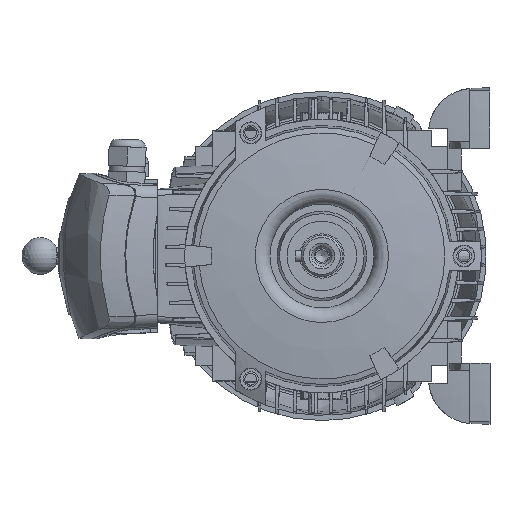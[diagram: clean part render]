
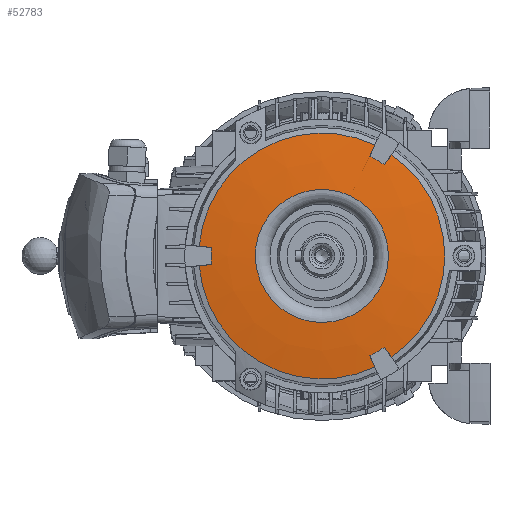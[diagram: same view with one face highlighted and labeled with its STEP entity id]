
A CAD part, left-side view. The second image highlights one B-rep face of the part: STEP entity #52783.
In plain terms, the highlighted free-form (B-spline) face has degree [2, 2] with [3, 9] control points.
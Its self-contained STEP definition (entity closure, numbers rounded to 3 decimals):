
#51445=CARTESIAN_POINT('',(-44.895,0.0,0.179));
#51446=VERTEX_POINT('',#51445);
#51447=CARTESIAN_POINT('',(0.0,0.0,0.179));
#51448=DIRECTION('',(0.0,0.0,-1.0));
#51449=DIRECTION('',(-1.0,0.0,0.0));
#51450=AXIS2_PLACEMENT_3D('',#51447,#51448,#51449);
#51451=CIRCLE('',#51450,44.895);
#51452=EDGE_CURVE('',#51446,#51446,#51451,.T.);
#52415=CARTESIAN_POINT('',(-74.963,35.632,4.171));
#52416=VERTEX_POINT('',#52415);
#52417=CARTESIAN_POINT('',(-6.623,-82.735,4.171));
#52418=VERTEX_POINT('',#52417);
#52419=CARTESIAN_POINT('',(0.0,0.0,4.171));
#52420=DIRECTION('',(0.0,0.0,1.0));
#52421=DIRECTION('',(1.0,0.0,0.0));
#52422=AXIS2_PLACEMENT_3D('',#52419,#52420,#52421);
#52423=CIRCLE('',#52422,83.0);
#52424=EDGE_CURVE('',#52416,#52418,#52423,.T.);
#52572=CARTESIAN_POINT('',(6.623,-82.735,4.171));
#52573=VERTEX_POINT('',#52572);
#52574=CARTESIAN_POINT('',(74.963,35.632,4.171));
#52575=VERTEX_POINT('',#52574);
#52576=CARTESIAN_POINT('',(0.0,0.0,4.171));
#52577=DIRECTION('',(0.0,0.0,1.0));
#52578=DIRECTION('',(1.0,0.0,0.0));
#52579=AXIS2_PLACEMENT_3D('',#52576,#52577,#52578);
#52580=CIRCLE('',#52579,83.0);
#52581=EDGE_CURVE('',#52573,#52575,#52580,.T.);
#52649=CARTESIAN_POINT('',(83.026,0.,4.175));
#52650=CARTESIAN_POINT('',(64.05,0.,1.326));
#52651=CARTESIAN_POINT('',(44.895,0.,0.179));
#52652=CARTESIAN_POINT('',(83.026,83.026,4.175));
#52653=CARTESIAN_POINT('',(64.05,64.05,1.326));
#52654=CARTESIAN_POINT('',(44.895,44.895,0.179));
#52655=CARTESIAN_POINT('',(0.,83.026,4.175));
#52656=CARTESIAN_POINT('',(0.,64.05,1.326));
#52657=CARTESIAN_POINT('',(0.,44.895,0.179));
#52658=CARTESIAN_POINT('',(-83.026,83.026,4.175));
#52659=CARTESIAN_POINT('',(-64.05,64.05,1.326));
#52660=CARTESIAN_POINT('',(-44.895,44.895,0.179));
#52661=CARTESIAN_POINT('',(-83.026,0.,4.175));
#52662=CARTESIAN_POINT('',(-64.05,0.,1.326));
#52663=CARTESIAN_POINT('',(-44.895,0.,0.179));
#52664=CARTESIAN_POINT('',(-83.026,-83.026,4.175));
#52665=CARTESIAN_POINT('',(-64.05,-64.05,1.326));
#52666=CARTESIAN_POINT('',(-44.895,-44.895,0.179));
#52667=CARTESIAN_POINT('',(0.,-83.026,4.175));
#52668=CARTESIAN_POINT('',(0.,-64.05,1.326));
#52669=CARTESIAN_POINT('',(0.,-44.895,0.179));
#52670=CARTESIAN_POINT('',(83.026,-83.026,4.175));
#52671=CARTESIAN_POINT('',(64.05,-64.05,1.326));
#52672=CARTESIAN_POINT('',(44.895,-44.895,0.179));
#52673=CARTESIAN_POINT('',(83.026,0.,4.175));
#52674=CARTESIAN_POINT('',(64.05,0.,1.326));
#52675=CARTESIAN_POINT('',(44.895,0.,0.179));
#52683=(BOUNDED_SURFACE()B_SPLINE_SURFACE(2,2,((#52649,#52652,#52655,#52658,#52661,#52664,#52667,#52670,#52673),(#52650,#52653,#52656,#52659,#52662,#52665,#52668,#52671,#52674),(#52651,#52654,#52657,#52660,#52663,#52666,#52669,#52672,#52675)),.UNSPECIFIED.,.F.,.T.,.U.)B_SPLINE_SURFACE_WITH_KNOTS((3,3),(3,2,2,2,3),(1.422,1.511),(0.0,1.571,3.142,4.712,6.283),.UNSPECIFIED.)GEOMETRIC_REPRESENTATION_ITEM()RATIONAL_B_SPLINE_SURFACE(((1.0,0.707,1.0,0.707,1.0,0.707,1.0,0.707,1.0),(0.999,0.706,0.999,0.706,0.999,0.706,0.999,0.706,0.999),(1.0,0.707,1.0,0.707,1.0,0.707,1.0,0.707,1.0)))REPRESENTATION_ITEM('')SURFACE());
#52684=ORIENTED_EDGE('',*,*,#52424,.F.);
#52685=CARTESIAN_POINT('',(-67.286,32.3,3.));
#52686=VERTEX_POINT('',#52685);
#52687=CARTESIAN_POINT('',(-67.286,32.3,3.));
#52688=CARTESIAN_POINT('',(-69.813,33.294,3.352));
#52689=CARTESIAN_POINT('',(-72.303,34.371,3.731));
#52690=CARTESIAN_POINT('',(-74.821,35.564,4.147));
#52691=CARTESIAN_POINT('',(-74.892,35.598,4.159));
#52692=CARTESIAN_POINT('',(-74.963,35.632,4.171));
#52693=B_SPLINE_CURVE_WITH_KNOTS('',3,(#52687,#52688,#52689,#52690,#52691,#52692),.UNSPECIFIED.,.F.,.U.,(4,2,4),(45.216,46.036,46.06),.UNSPECIFIED.);
#52694=EDGE_CURVE('',#52686,#52416,#52693,.T.);
#52695=ORIENTED_EDGE('',*,*,#52694,.F.);
#52696=CARTESIAN_POINT('',(-61.616,42.122,3.));
#52697=VERTEX_POINT('',#52696);
#52698=CARTESIAN_POINT('',(0.0,0.0,3.));
#52699=DIRECTION('',(0.0,0.0,1.0));
#52700=DIRECTION('',(1.0,0.0,0.0));
#52701=AXIS2_PLACEMENT_3D('',#52698,#52699,#52700);
#52702=CIRCLE('',#52701,74.638);
#52703=EDGE_CURVE('',#52697,#52686,#52702,.T.);
#52704=ORIENTED_EDGE('',*,*,#52703,.F.);
#52705=CARTESIAN_POINT('',(-68.339,47.104,4.171));
#52706=VERTEX_POINT('',#52705);
#52707=CARTESIAN_POINT('',(-68.339,47.104,4.171));
#52708=CARTESIAN_POINT('',(-66.043,45.523,3.753));
#52709=CARTESIAN_POINT('',(-63.801,43.862,3.362));
#52710=CARTESIAN_POINT('',(-61.616,42.122,3.));
#52711=B_SPLINE_CURVE_WITH_KNOTS('',3,(#52707,#52708,#52709,#52710),.UNSPECIFIED.,.F.,.U.,(4,4),(31.478,32.324),.UNSPECIFIED.);
#52712=EDGE_CURVE('',#52706,#52697,#52711,.T.);
#52713=ORIENTED_EDGE('',*,*,#52712,.F.);
#52714=CARTESIAN_POINT('',(68.339,47.104,4.171));
#52715=VERTEX_POINT('',#52714);
#52716=CARTESIAN_POINT('',(0.0,0.0,4.171));
#52717=DIRECTION('',(0.0,0.0,1.0));
#52718=DIRECTION('',(1.0,0.0,0.0));
#52719=AXIS2_PLACEMENT_3D('',#52716,#52717,#52718);
#52720=CIRCLE('',#52719,83.0);
#52721=EDGE_CURVE('',#52715,#52706,#52720,.T.);
#52722=ORIENTED_EDGE('',*,*,#52721,.F.);
#52723=CARTESIAN_POINT('',(61.616,42.122,3.));
#52724=VERTEX_POINT('',#52723);
#52725=CARTESIAN_POINT('',(61.616,42.122,3.));
#52726=CARTESIAN_POINT('',(63.74,43.813,3.352));
#52727=CARTESIAN_POINT('',(65.918,45.43,3.731));
#52728=CARTESIAN_POINT('',(68.21,47.015,4.147));
#52729=CARTESIAN_POINT('',(68.275,47.059,4.159));
#52730=CARTESIAN_POINT('',(68.339,47.104,4.171));
#52731=B_SPLINE_CURVE_WITH_KNOTS('',3,(#52725,#52726,#52727,#52728,#52729,#52730),.UNSPECIFIED.,.F.,.U.,(4,2,4),(45.216,46.036,46.06),.UNSPECIFIED.);
#52732=EDGE_CURVE('',#52724,#52715,#52731,.T.);
#52733=ORIENTED_EDGE('',*,*,#52732,.F.);
#52734=CARTESIAN_POINT('',(67.286,32.3,3.));
#52735=VERTEX_POINT('',#52734);
#52736=CARTESIAN_POINT('',(0.0,0.0,3.));
#52737=DIRECTION('',(0.0,0.0,1.0));
#52738=DIRECTION('',(1.0,0.0,0.0));
#52739=AXIS2_PLACEMENT_3D('',#52736,#52737,#52738);
#52740=CIRCLE('',#52739,74.638);
#52741=EDGE_CURVE('',#52735,#52724,#52740,.T.);
#52742=ORIENTED_EDGE('',*,*,#52741,.F.);
#52743=CARTESIAN_POINT('',(74.963,35.632,4.171));
#52744=CARTESIAN_POINT('',(72.446,34.434,3.753));
#52745=CARTESIAN_POINT('',(69.886,33.322,3.362));
#52746=CARTESIAN_POINT('',(67.286,32.3,3.));
#52747=B_SPLINE_CURVE_WITH_KNOTS('',3,(#52743,#52744,#52745,#52746),.UNSPECIFIED.,.F.,.U.,(4,4),(31.478,32.324),.UNSPECIFIED.);
#52748=EDGE_CURVE('',#52575,#52735,#52747,.T.);
#52749=ORIENTED_EDGE('',*,*,#52748,.F.);
#52750=ORIENTED_EDGE('',*,*,#52581,.F.);
#52751=CARTESIAN_POINT('',(5.671,-74.422,3.));
#52752=VERTEX_POINT('',#52751);
#52753=CARTESIAN_POINT('',(5.671,-74.422,3.));
#52754=CARTESIAN_POINT('',(6.074,-77.107,3.352));
#52755=CARTESIAN_POINT('',(6.385,-79.802,3.731));
#52756=CARTESIAN_POINT('',(6.611,-82.579,4.147));
#52757=CARTESIAN_POINT('',(6.617,-82.657,4.159));
#52758=CARTESIAN_POINT('',(6.623,-82.735,4.171));
#52759=B_SPLINE_CURVE_WITH_KNOTS('',3,(#52753,#52754,#52755,#52756,#52757,#52758),.UNSPECIFIED.,.F.,.U.,(4,2,4),(45.216,46.036,46.06),.UNSPECIFIED.);
#52760=EDGE_CURVE('',#52752,#52573,#52759,.T.);
#52761=ORIENTED_EDGE('',*,*,#52760,.F.);
#52762=CARTESIAN_POINT('',(-5.671,-74.422,3.));
#52763=VERTEX_POINT('',#52762);
#52764=CARTESIAN_POINT('',(0.0,0.0,3.));
#52765=DIRECTION('',(0.0,0.0,1.0));
#52766=DIRECTION('',(1.0,0.0,0.0));
#52767=AXIS2_PLACEMENT_3D('',#52764,#52765,#52766);
#52768=CIRCLE('',#52767,74.638);
#52769=EDGE_CURVE('',#52763,#52752,#52768,.T.);
#52770=ORIENTED_EDGE('',*,*,#52769,.F.);
#52771=CARTESIAN_POINT('',(-6.623,-82.735,4.171));
#52772=CARTESIAN_POINT('',(-6.403,-79.957,3.753));
#52773=CARTESIAN_POINT('',(-6.085,-77.184,3.362));
#52774=CARTESIAN_POINT('',(-5.671,-74.422,3.));
#52775=B_SPLINE_CURVE_WITH_KNOTS('',3,(#52771,#52772,#52773,#52774),.UNSPECIFIED.,.F.,.U.,(4,4),(31.478,32.324),.UNSPECIFIED.);
#52776=EDGE_CURVE('',#52418,#52763,#52775,.T.);
#52777=ORIENTED_EDGE('',*,*,#52776,.F.);
#52778=EDGE_LOOP('',(#52684,#52695,#52704,#52713,#52722,#52733,#52742,#52749,#52750,#52761,#52770,#52777));
#52779=FACE_OUTER_BOUND('',#52778,.T.);
#52780=ORIENTED_EDGE('',*,*,#51452,.F.);
#52781=EDGE_LOOP('',(#52780));
#52782=FACE_BOUND('',#52781,.T.);
#52783=ADVANCED_FACE('',(#52779,#52782),#52683,.T.);
